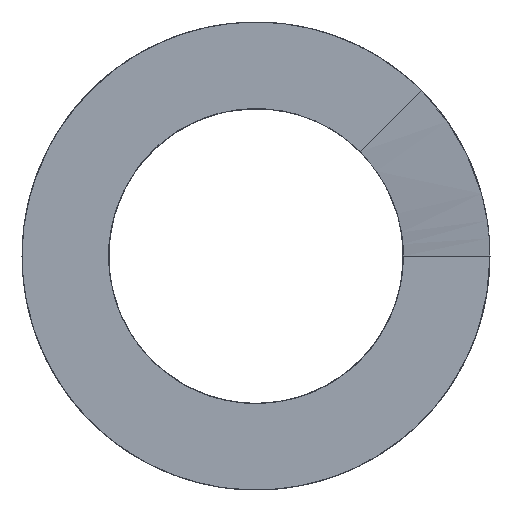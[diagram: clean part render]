
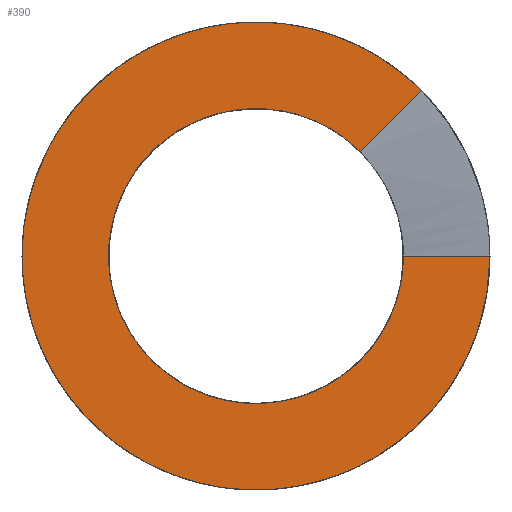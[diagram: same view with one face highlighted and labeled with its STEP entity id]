
A CAD part, front view. The second image highlights one B-rep face of the part: STEP entity #390.
In plain terms, the highlighted planar face has unit normal (0, -1, 0).
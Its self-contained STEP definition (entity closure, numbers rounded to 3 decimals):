
#36=LINE('',#2814,#44);
#44=VECTOR('',#461,10.);
#74=B_SPLINE_CURVE_WITH_KNOTS('',3,(#2102,#2103,#2104,#2105,#2106,#2107,
#2108,#2109,#2110,#2111,#2112,#2113,#2114,#2115,#2116,#2117,#2118,#2119,
#2120,#2121,#2122,#2123,#2124,#2125,#2126,#2127,#2128,#2129,#2130,#2131,
#2132,#2133,#2134,#2135,#2136,#2137,#2138,#2139,#2140,#2141),
 .UNSPECIFIED.,.F.,.F.,(4,2,2,2,2,2,2,2,2,2,2,2,2,2,2,2,2,2,2,4),(-10.803,
-10.18,-9.558,-8.825,-8.175,
-7.595,-7.092,-6.717,-6.449,
-6.355,-6.273,-6.125,-5.36,
-4.594,-3.828,-3.063,-2.297,
-1.531,-0.766,0.),.UNSPECIFIED.);
#83=B_SPLINE_CURVE_WITH_KNOTS('',3,(#2701,#2702,#2703,#2704,#2705,#2706,
#2707,#2708,#2709,#2710,#2711,#2712,#2713,#2714,#2715,#2716,#2717,#2718,
#2719,#2720,#2721,#2722,#2723,#2724,#2725,#2726,#2727,#2728,#2729,#2730,
#2731,#2732,#2733,#2734,#2735,#2736,#2737,#2738,#2739,#2740,#2741,#2742),
 .UNSPECIFIED.,.F.,.F.,(4,2,2,2,2,2,2,2,2,2,2,2,2,2,2,2,2,2,2,2,4),(-17.144,
-16.042,-14.939,-13.725,-12.51,
-11.295,-10.08,-8.865,-7.65,
-7.312,-7.169,-7.042,-6.884,
-6.683,-6.426,-5.361,-4.549,
-3.659,-2.43,-1.215,0.),.UNSPECIFIED.);
#89=B_SPLINE_CURVE_WITH_KNOTS('',3,(#2808,#2809,#2810,#2811,#2812,#2813),
 .UNSPECIFIED.,.F.,.F.,(4,2,4),(-1.15,-0.575,0.),.UNSPECIFIED.);
#114=FACE_OUTER_BOUND('',#140,.T.);
#140=EDGE_LOOP('',(#335,#336,#337,#338));
#171=VERTEX_POINT('',#1767);
#178=VERTEX_POINT('',#2096);
#181=VERTEX_POINT('',#2275);
#186=VERTEX_POINT('',#2700);
#224=EDGE_CURVE('',#178,#171,#74,.T.);
#235=EDGE_CURVE('',#181,#186,#83,.T.);
#242=EDGE_CURVE('',#186,#178,#89,.T.);
#243=EDGE_CURVE('',#171,#181,#36,.T.);
#335=ORIENTED_EDGE('',*,*,#242,.F.);
#336=ORIENTED_EDGE('',*,*,#235,.F.);
#337=ORIENTED_EDGE('',*,*,#243,.F.);
#338=ORIENTED_EDGE('',*,*,#224,.F.);
#372=PLANE('',#429);
#390=ADVANCED_FACE('',(#114),#372,.F.);
#429=AXIS2_PLACEMENT_3D('',#2807,#459,#460);
#459=DIRECTION('center_axis',(0.,1.,0.));
#460=DIRECTION('ref_axis',(0.,0.,1.));
#461=DIRECTION('',(1.,0.,0.));
#1767=CARTESIAN_POINT('',(19.6,0.,0.));
#2096=CARTESIAN_POINT('',(13.859,0.,13.859));
#2102=CARTESIAN_POINT('Ctrl Pts',(13.859,0.,
13.859));
#2103=CARTESIAN_POINT('Ctrl Pts',(12.391,0.,
15.327));
#2104=CARTESIAN_POINT('Ctrl Pts',(10.7,0.,
16.553));
#2105=CARTESIAN_POINT('Ctrl Pts',(6.995,0.,
18.427));
#2106=CARTESIAN_POINT('Ctrl Pts',(5.005,0.,
19.063));
#2107=CARTESIAN_POINT('Ctrl Pts',(0.541,0.,
19.744));
#2108=CARTESIAN_POINT('Ctrl Pts',(-1.92,0.,
19.658));
#2109=CARTESIAN_POINT('Ctrl Pts',(-6.416,0.,
18.647));
#2110=CARTESIAN_POINT('Ctrl Pts',(-8.438,0.,
17.823));
#2111=CARTESIAN_POINT('Ctrl Pts',(-11.931,0.,
15.671));
#2112=CARTESIAN_POINT('Ctrl Pts',(-13.419,0.,
14.417));
#2113=CARTESIAN_POINT('Ctrl Pts',(-15.807,0.,
11.709));
#2114=CARTESIAN_POINT('Ctrl Pts',(-16.75,0.,
10.315));
#2115=CARTESIAN_POINT('Ctrl Pts',(-18.066,0.,
7.702));
#2116=CARTESIAN_POINT('Ctrl Pts',(-18.521,0.,
6.535));
#2117=CARTESIAN_POINT('Ctrl Pts',(-19.104,0.,
4.471));
#2118=CARTESIAN_POINT('Ctrl Pts',(-19.288,0.,
3.595));
#2119=CARTESIAN_POINT('Ctrl Pts',(-19.455,0.,
2.4));
#2120=CARTESIAN_POINT('Ctrl Pts',(-19.491,0.,
2.09));
#2121=CARTESIAN_POINT('Ctrl Pts',(-19.544,0.,
1.507));
#2122=CARTESIAN_POINT('Ctrl Pts',(-19.563,0.,
1.233));
#2123=CARTESIAN_POINT('Ctrl Pts',(-19.601,0.,
0.468));
#2124=CARTESIAN_POINT('Ctrl Pts',(-19.606,0.,
-0.023));
#2125=CARTESIAN_POINT('Ctrl Pts',(-19.526,0.,
-3.066));
#2126=CARTESIAN_POINT('Ctrl Pts',(-18.962,0.,
-5.58));
#2127=CARTESIAN_POINT('Ctrl Pts',(-16.9,0.,
-10.249));
#2128=CARTESIAN_POINT('Ctrl Pts',(-15.424,0.,
-12.361));
#2129=CARTESIAN_POINT('Ctrl Pts',(-11.744,0.,
-15.898));
#2130=CARTESIAN_POINT('Ctrl Pts',(-9.576,0.,
-17.291));
#2131=CARTESIAN_POINT('Ctrl Pts',(-4.829,0.,
-19.167));
#2132=CARTESIAN_POINT('Ctrl Pts',(-2.295,0.,
-19.632));
#2133=CARTESIAN_POINT('Ctrl Pts',(2.809,0.,
-19.565));
#2134=CARTESIAN_POINT('Ctrl Pts',(5.33,0.,
-19.033));
#2135=CARTESIAN_POINT('Ctrl Pts',(10.027,0.,
-17.033));
#2136=CARTESIAN_POINT('Ctrl Pts',(12.157,0.,
-15.585));
#2137=CARTESIAN_POINT('Ctrl Pts',(15.743,0.,
-11.952));
#2138=CARTESIAN_POINT('Ctrl Pts',(17.164,0.,
-9.802));
#2139=CARTESIAN_POINT('Ctrl Pts',(19.101,0.,
-5.08));
#2140=CARTESIAN_POINT('Ctrl Pts',(19.6,0.,-2.552));
#2141=CARTESIAN_POINT('Ctrl Pts',(19.6,0.,0.));
#2275=CARTESIAN_POINT('',(31.1,0.,0.));
#2700=CARTESIAN_POINT('',(21.991,0.,21.991));
#2701=CARTESIAN_POINT('Ctrl Pts',(31.1,0.,0.));
#2702=CARTESIAN_POINT('Ctrl Pts',(31.1,0.,-3.674));
#2703=CARTESIAN_POINT('Ctrl Pts',(30.449,0.,-7.318));
#2704=CARTESIAN_POINT('Ctrl Pts',(27.906,0.,-14.212));
#2705=CARTESIAN_POINT('Ctrl Pts',(26.033,0.,-17.406));
#2706=CARTESIAN_POINT('Ctrl Pts',(21.017,0.,-23.278));
#2707=CARTESIAN_POINT('Ctrl Pts',(17.811,0.,-25.815));
#2708=CARTESIAN_POINT('Ctrl Pts',(10.606,0.,-29.515));
#2709=CARTESIAN_POINT('Ctrl Pts',(6.677,0.,-30.644));
#2710=CARTESIAN_POINT('Ctrl Pts',(-1.393,0.,-31.332));
#2711=CARTESIAN_POINT('Ctrl Pts',(-5.457,0.,-30.884));
#2712=CARTESIAN_POINT('Ctrl Pts',(-13.184,0.,-28.457));
#2713=CARTESIAN_POINT('Ctrl Pts',(-16.774,0.,-26.5));
#2714=CARTESIAN_POINT('Ctrl Pts',(-23.001,0.,-21.321));
#2715=CARTESIAN_POINT('Ctrl Pts',(-25.579,0.,-18.148));
#2716=CARTESIAN_POINT('Ctrl Pts',(-29.373,0.,-10.992));
#2717=CARTESIAN_POINT('Ctrl Pts',(-30.553,0.,-7.078));
#2718=CARTESIAN_POINT('Ctrl Pts',(-31.061,0.,-1.928));
#2719=CARTESIAN_POINT('Ctrl Pts',(-31.11,0.,
-0.803));
#2720=CARTESIAN_POINT('Ctrl Pts',(-31.093,0.,
0.8));
#2721=CARTESIAN_POINT('Ctrl Pts',(-31.077,0.,
1.277));
#2722=CARTESIAN_POINT('Ctrl Pts',(-31.027,0.,
2.176));
#2723=CARTESIAN_POINT('Ctrl Pts',(-30.994,0.,
2.598));
#2724=CARTESIAN_POINT('Ctrl Pts',(-30.902,0.,
3.542));
#2725=CARTESIAN_POINT('Ctrl Pts',(-30.838,0.,
4.065));
#2726=CARTESIAN_POINT('Ctrl Pts',(-30.661,0.,
5.25));
#2727=CARTESIAN_POINT('Ctrl Pts',(-30.541,0.,5.909));
#2728=CARTESIAN_POINT('Ctrl Pts',(-30.218,0.,7.403));
#2729=CARTESIAN_POINT('Ctrl Pts',(-30.002,0.,
8.234));
#2730=CARTESIAN_POINT('Ctrl Pts',(-28.719,0.,
12.451));
#2731=CARTESIAN_POINT('Ctrl Pts',(-27.111,0.,
15.646));
#2732=CARTESIAN_POINT('Ctrl Pts',(-23.391,0.,
20.674));
#2733=CARTESIAN_POINT('Ctrl Pts',(-21.505,0.,
22.629));
#2734=CARTESIAN_POINT('Ctrl Pts',(-17.07,0.,
26.166));
#2735=CARTESIAN_POINT('Ctrl Pts',(-14.496,0.,
27.675));
#2736=CARTESIAN_POINT('Ctrl Pts',(-7.955,0.,
30.343));
#2737=CARTESIAN_POINT('Ctrl Pts',(-3.893,0.,
31.126));
#2738=CARTESIAN_POINT('Ctrl Pts',(4.254,0.,
31.073));
#2739=CARTESIAN_POINT('Ctrl Pts',(8.259,0.,
30.255));
#2740=CARTESIAN_POINT('Ctrl Pts',(15.732,0.,
27.131));
#2741=CARTESIAN_POINT('Ctrl Pts',(19.127,0.,
24.855));
#2742=CARTESIAN_POINT('Ctrl Pts',(21.991,0.,
21.991));
#2807=CARTESIAN_POINT('Origin',(0.,0.,0.));
#2808=CARTESIAN_POINT('Ctrl Pts',(21.991,0.,21.991));
#2809=CARTESIAN_POINT('Ctrl Pts',(20.636,0.,
20.636));
#2810=CARTESIAN_POINT('Ctrl Pts',(19.28,0.,
19.28));
#2811=CARTESIAN_POINT('Ctrl Pts',(16.57,0.,
16.57));
#2812=CARTESIAN_POINT('Ctrl Pts',(15.215,0.,
15.215));
#2813=CARTESIAN_POINT('Ctrl Pts',(13.859,0.,
13.859));
#2814=CARTESIAN_POINT('',(12.675,0.,0.));
